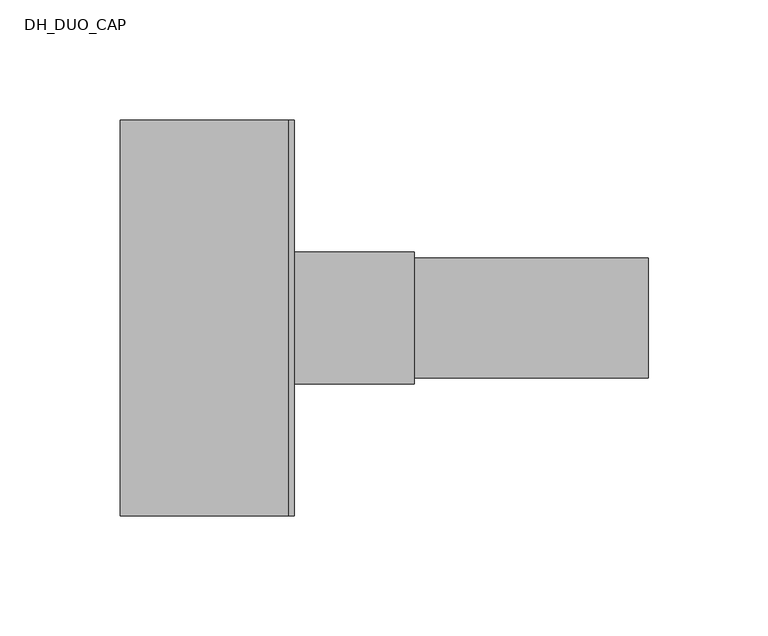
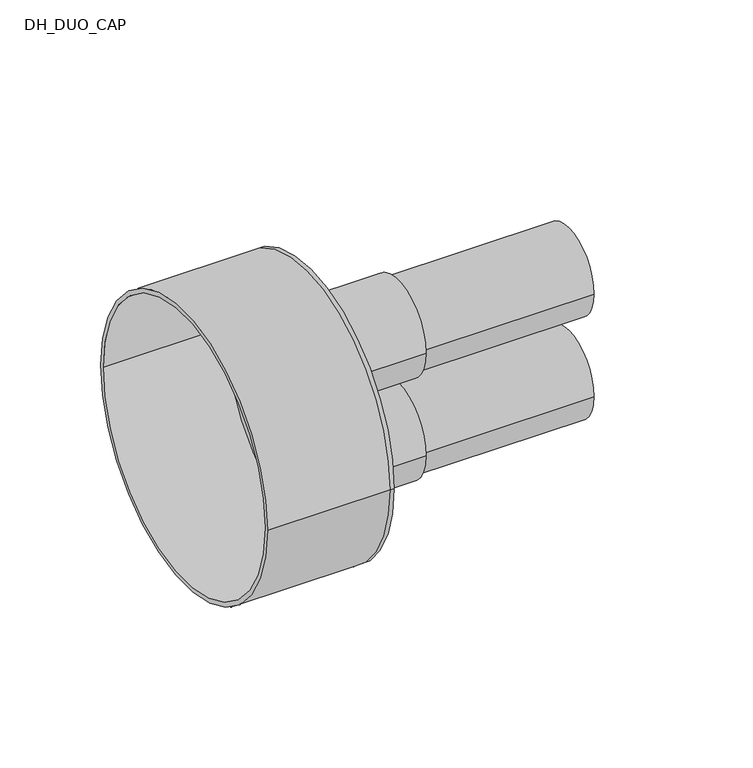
"""IFC4 building model written with IfcOpenShell, lengths in millimetres: pipe fitting geometry, DH_DUO_CAP : INSULPEX DUO 11 Heating - Rubber Cap."""

from ifc_helpers import new_model, si_unit, point, frame, frame_2d, origin, place, context, project, spatial, polyline, circle_curve, trimmed, segment, composite_curve, outline, extrude, source, transform, mapped, element, save
from ifc_brep_helpers import plane_surface, cylinder_surface, revolved_surface, advanced_brep


def dh_duo_cap_2132d5ff(model_context):
    return source(origin(), model_context, "Body", "SolidModel", [
        extrude(outline(composite_curve([segment(trimmed(circle_curve(frame_2d((0.0, -31.0)), 25.0), [point((-25.0, -31.0))], [point((25.0, -31.0))], False, "CARTESIAN"), True, "CONTINUOUS"), segment(trimmed(circle_curve(frame_2d((0.0, -31.0)), 25.0), [point((25.0, -31.0))], [point((-25.0, -31.0))], False, "CARTESIAN"), True, "CONTINUOUS")], self_intersect=False), holes=[composite_curve([segment(trimmed(circle_curve(frame_2d((0.0, -31.0)), 20.4), [point((-20.4, -31.0))], [point((20.4, -31.0))], True, "CARTESIAN"), True, "CONTINUOUS"), segment(trimmed(circle_curve(frame_2d((0.0, -31.0)), 20.4), [point((20.4, -31.0))], [point((-20.4, -31.0))], True, "CARTESIAN"), True, "CONTINUOUS")], self_intersect=False)]), frame((0.0, 0.0, 0.0), z_axis=(1.0, 0.0, 0.0), x_axis=(0.0, 1.0, 0.0)), (0.0, 0.0, 1.0), 150.0),
        extrude(outline(composite_curve([segment(trimmed(circle_curve(frame_2d((0.0, 31.0)), 25.0), [point((-25.0, 31.0))], [point((25.0, 31.0))], False, "CARTESIAN"), True, "CONTINUOUS"), segment(trimmed(circle_curve(frame_2d((0.0, 31.0)), 25.0), [point((25.0, 31.0))], [point((-25.0, 31.0))], False, "CARTESIAN"), True, "CONTINUOUS")], self_intersect=False), holes=[composite_curve([segment(trimmed(circle_curve(frame_2d((0.0, 31.0)), 20.4), [point((-20.4, 31.0))], [point((20.4, 31.0))], True, "CARTESIAN"), True, "CONTINUOUS"), segment(trimmed(circle_curve(frame_2d((0.0, 31.0)), 20.4), [point((20.4, 31.0))], [point((-20.4, 31.0))], True, "CARTESIAN"), True, "CONTINUOUS")], self_intersect=False)]), frame((0.0, 0.0, 0.0), z_axis=(1.0, 0.0, 0.0), x_axis=(0.0, 1.0, 0.0)), (0.0, 0.0, 1.0), 150.0),
        advanced_brep(
        [(-70.0, -82.5, 0.0), (-70.0, 82.5, 0.0), (-70.0, -80.0, 0.0), (-70.0, 80.0, 0.0), (0.0, -80.0, 0.0), (0.0, 80.0, 0.0), (0.0, -82.5, 0.0), (0.0, 82.5, 0.0), (0.0, 25.0, 31.0), (0.0, -25.0, 31.0), (0.0, 25.0, -31.0), (0.0, -25.0, -31.0), (2.5, -82.5, 0.0), (2.5, 82.5, 0.0), (2.5, -25.0, 31.0), (2.5, 25.0, 31.0), (2.5, -25.0, -31.0), (2.5, 25.0, -31.0)],
        [
            (0, 1, circle_curve(frame((-70.0, 0.0, 0.0), z_axis=(-1.0, 0.0, 0.0), x_axis=(0.0, 1.0, 0.0)), 82.5)),
            (1, 0, circle_curve(frame((-70.0, 0.0, 0.0), z_axis=(-1.0, 0.0, 0.0), x_axis=(0.0, 1.0, 0.0)), 82.5)),
            (2, 3, circle_curve(frame((-70.0, 0.0, 0.0), z_axis=(1.0, 0.0, 0.0), x_axis=(0.0, 1.0, 0.0)), 80.0)),
            (3, 2, circle_curve(frame((-70.0, 0.0, 0.0), z_axis=(1.0, 0.0, 0.0), x_axis=(0.0, 1.0, 0.0)), 80.0)),
            (2, 4),
            (4, 5, circle_curve(frame((0.0, 0.0, 0.0), z_axis=(1.0, 0.0, 0.0), x_axis=(0.0, 1.0, 0.0)), 80.0)),
            (5, 3),
            (5, 4, circle_curve(frame((0.0, 0.0, 0.0), z_axis=(1.0, 0.0, 0.0), x_axis=(0.0, 1.0, 0.0)), 80.0)),
            (0, 6),
            (6, 7, circle_curve(frame((0.0, 0.0, 0.0), z_axis=(-1.0, 0.0, 0.0), x_axis=(0.0, 1.0, 0.0)), 82.5)),
            (7, 1),
            (7, 6, circle_curve(frame((0.0, 0.0, 0.0), z_axis=(-1.0, 0.0, 0.0), x_axis=(0.0, 1.0, 0.0)), 82.5)),
            (8, 9, circle_curve(frame((0.0, 0.0, 31.0), z_axis=(1.0, 0.0, 0.0), x_axis=(0.0, 1.0, 0.0)), 25.0)),
            (9, 8, circle_curve(frame((0.0, 0.0, 31.0), z_axis=(1.0, 0.0, 0.0), x_axis=(0.0, 1.0, 0.0)), 25.0)),
            (10, 11, circle_curve(frame((0.0, 0.0, -31.0), z_axis=(1.0, 0.0, 0.0), x_axis=(0.0, 1.0, 0.0)), 25.0)),
            (11, 10, circle_curve(frame((0.0, 0.0, -31.0), z_axis=(1.0, 0.0, 0.0), x_axis=(0.0, 1.0, 0.0)), 25.0)),
            (12, 13, circle_curve(frame((2.5, 0.0, 0.0), z_axis=(1.0, 0.0, 0.0), x_axis=(0.0, 1.0, 0.0)), 82.5)),
            (13, 12, circle_curve(frame((2.5, 0.0, 0.0), z_axis=(1.0, 0.0, 0.0), x_axis=(0.0, 1.0, 0.0)), 82.5)),
            (14, 15, circle_curve(frame((2.5, 0.0, 31.0), z_axis=(-1.0, 0.0, 0.0), x_axis=(0.0, 1.0, 0.0)), 25.0)),
            (15, 14, circle_curve(frame((2.5, 0.0, 31.0), z_axis=(-1.0, 0.0, 0.0), x_axis=(0.0, 1.0, 0.0)), 25.0)),
            (16, 17, circle_curve(frame((2.5, 0.0, -31.0), z_axis=(-1.0, 0.0, 0.0), x_axis=(0.0, 1.0, 0.0)), 25.0)),
            (17, 16, circle_curve(frame((2.5, 0.0, -31.0), z_axis=(-1.0, 0.0, 0.0), x_axis=(0.0, 1.0, 0.0)), 25.0)),
            (13, 7),
            (6, 12),
            (8, 15),
            (14, 9),
            (10, 17),
            (16, 11),
        ],
        [
            plane_surface(frame((-70.0, 0.0, 0.0), z_axis=(-1.0, 0.0, 0.0), x_axis=(0.0, 0.0, 1.0))),
            revolved_surface(polyline([(0.0, 80.0, 0.0), (-70.0, 80.0, 0.0)]), (-70.0, 0.0, 0.0), (1.0, 0.0, 0.0)),
            cylinder_surface(frame((-70.0, 0.0, 0.0), z_axis=(-1.0, 0.0, 0.0), x_axis=(0.0, 1.0, 0.0)), 82.5),
            plane_surface(frame((0.0, 0.0, 0.0), z_axis=(-1.0, 0.0, 0.0), x_axis=(0.0, 0.0, 1.0))),
            plane_surface(frame((2.5, 0.0, 0.0), z_axis=(1.0, 0.0, 0.0), x_axis=(0.0, 0.0, 1.0))),
            cylinder_surface(frame((0.0, 0.0, 0.0), z_axis=(-1.0, 0.0, 0.0), x_axis=(0.0, 1.0, 0.0)), 82.5),
            revolved_surface(polyline([(0.0, 25.0, 31.0), (2.5, 25.0, 31.0)]), (0.0, 0.0, 31.0), (-1.0, 0.0, 0.0)),
            revolved_surface(polyline([(0.0, 25.0, -31.0), (2.5, 25.0, -31.0)]), (0.0, 0.0, -31.0), (-1.0, 0.0, 0.0)),
        ],
        [
            (0, [[1, 2], [3, 4]]),
            (1, [[-3, 5, 6, 7]]),
            (1, [[-4, -7, 8, -5]]),
            (2, [[-1, 9, 10, 11]]),
            (2, [[-2, -11, 12, -9]]),
            (3, [[-6, -8], [13, 14], [15, 16]]),
            (4, [[17, 18], [19, 20], [21, 22]]),
            (5, [[-18, 23, -10, 24]]),
            (5, [[-17, -24, -12, -23]]),
            (6, [[25, -19, 26, -13]]),
            (6, [[-25, -14, -26, -20]]),
            (7, [[27, -21, 28, -15]]),
            (7, [[-27, -16, -28, -22]]),
        ],
    ),
        extrude(outline(composite_curve([segment(trimmed(circle_curve(frame_2d((0.0, -31.0)), 27.5), [point((-27.5, -31.0))], [point((27.5, -31.0))], False, "CARTESIAN"), True, "CONTINUOUS"), segment(trimmed(circle_curve(frame_2d((0.0, -31.0)), 27.5), [point((27.5, -31.0))], [point((-27.5, -31.0))], False, "CARTESIAN"), True, "CONTINUOUS")], self_intersect=False), holes=[composite_curve([segment(trimmed(circle_curve(frame_2d((0.0, -31.0)), 25.0), [point((-25.0, -31.0))], [point((25.0, -31.0))], True, "CARTESIAN"), True, "CONTINUOUS"), segment(trimmed(circle_curve(frame_2d((0.0, -31.0)), 25.0), [point((25.0, -31.0))], [point((-25.0, -31.0))], True, "CARTESIAN"), True, "CONTINUOUS")], self_intersect=False)]), frame((2.5, 0.0, 0.0), z_axis=(1.0, 0.0, 0.0), x_axis=(0.0, 1.0, 0.0)), (0.0, 0.0, 1.0), 50.0),
        extrude(outline(composite_curve([segment(trimmed(circle_curve(frame_2d((0.0, 31.0)), 27.5), [point((-27.5, 31.0))], [point((27.5, 31.0))], False, "CARTESIAN"), True, "CONTINUOUS"), segment(trimmed(circle_curve(frame_2d((0.0, 31.0)), 27.5), [point((27.5, 31.0))], [point((-27.5, 31.0))], False, "CARTESIAN"), True, "CONTINUOUS")], self_intersect=False), holes=[composite_curve([segment(trimmed(circle_curve(frame_2d((0.0, 31.0)), 25.0), [point((-25.0, 31.0))], [point((25.0, 31.0))], True, "CARTESIAN"), True, "CONTINUOUS"), segment(trimmed(circle_curve(frame_2d((0.0, 31.0)), 25.0), [point((25.0, 31.0))], [point((-25.0, 31.0))], True, "CARTESIAN"), True, "CONTINUOUS")], self_intersect=False)]), frame((2.5, 0.0, 0.0), z_axis=(1.0, 0.0, 0.0), x_axis=(0.0, 1.0, 0.0)), (0.0, 0.0, 1.0), 50.0),
    ])


if __name__ == "__main__":
    model = new_model("IFC4")
    model_context = context("Model", 3, world=origin())
    ifc_project = project(units=[si_unit("LENGTHUNIT", "METRE", prefix="MILLI")], contexts=[model_context])
    site = spatial("IfcSite", under=ifc_project)
    building = spatial("IfcBuilding", under=site)
    placement = place(None, origin())
    dh_duo_cap_shape = dh_duo_cap_2132d5ff(model_context)
    element("IfcPipeFitting", 1, ObjectType="DH_DUO_CAP : INSULPEX DUO 11 Heating - Rubber Cap", at=placement, inside=building, context=model_context, shape_type="MappedRepresentation", body=[
        mapped(dh_duo_cap_shape, transform((0.0, 0.0, 0.0), x_axis=(1.0, 0.0, 0.0), y_axis=(0.0, 1.0, 0.0), z_axis=(0.0, 0.0, 1.0))),
    ])
    save(model, "model.ifc")
